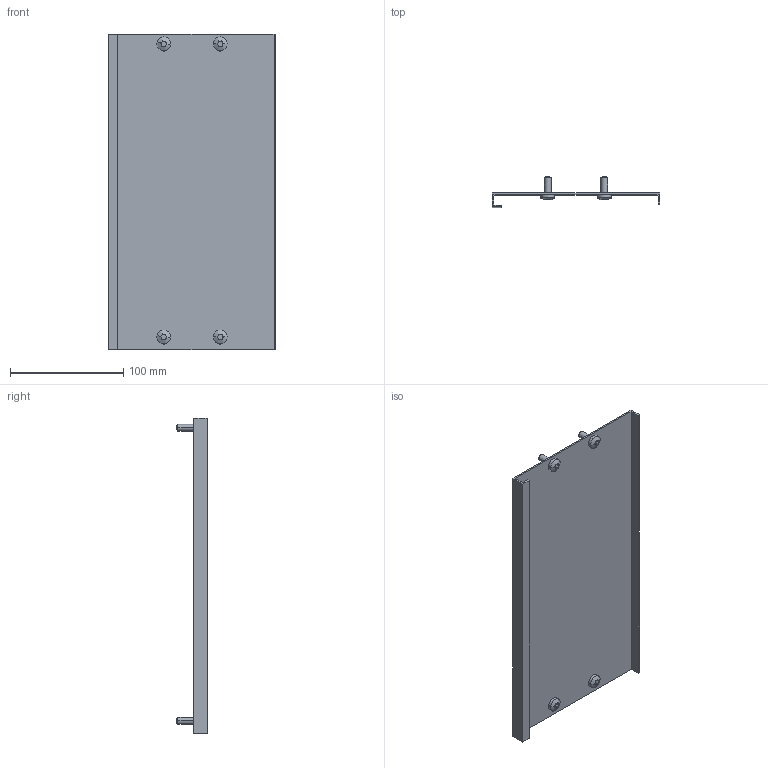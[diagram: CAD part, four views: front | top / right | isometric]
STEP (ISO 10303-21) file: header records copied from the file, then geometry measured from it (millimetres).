
FILE_DESCRIPTION (( 'STEP AP214' ), '1' );
FILE_NAME ('FO-00-PVS-015-040 Ïëàñòðîí ãëóõîé âíóòðåííèé 150õ400.STEP', '2025-09-30T08:02:36', ( '' ), ( '' ), 'SwSTEP 2.0', 'SolidWorks 2023', '' );
FILE_SCHEMA (( 'AUTOMOTIVE_DESIGN' ));
Length unit declared in the file: millimetre
Products named in the file (3): FO-00-PVS-015-040 Пластрон глухой внутренний 150х400; Винт M6x16 15
Assembly tree (3 placements, depth 2):
  FO-00-PVS-015-040 Пластрон глухой внутренний 150х400
    FO-00-PVS-015-040 Пластрон глухой внутренний 150х400
    Винт M6x16 15  x2
Bounding box: 148 x 27 x 279 mm (x, y, z)
Volume: 75663.5 mm3; surface area: 100833.5 mm2
Topology: 5 solids, 5 shells, 145 faces, 377 edges, 246 vertices
Faces by surface type: cylinder 88, plane 37, cone 12, bspline 8
Entity records: 3068 total; most frequent: CARTESIAN_POINT 694, ORIENTED_EDGE 482, DIRECTION 475, EDGE_CURVE 241, AXIS2_PLACEMENT_3D 175, VERTEX_POINT 158, VECTOR 125, LINE 125
